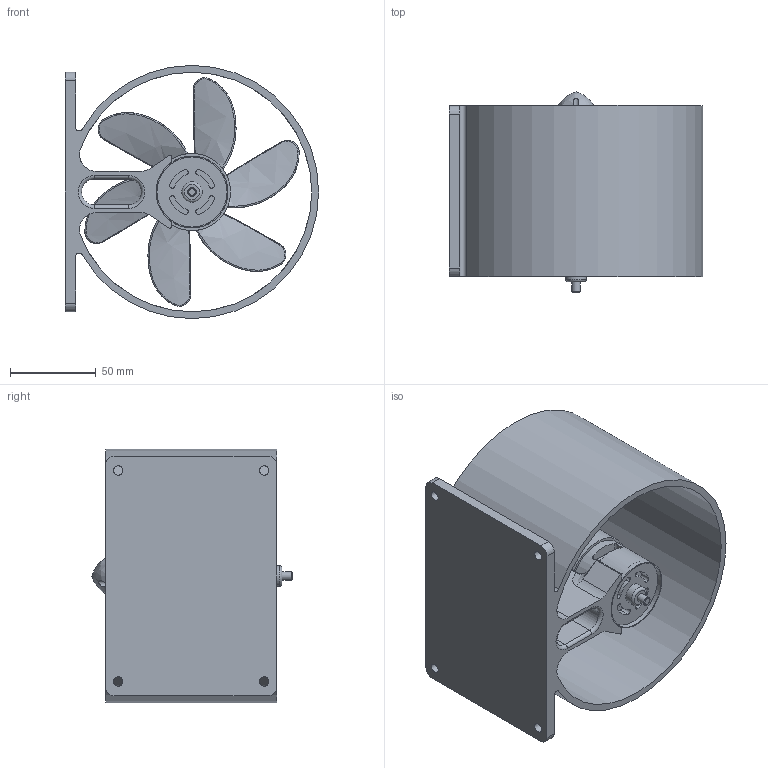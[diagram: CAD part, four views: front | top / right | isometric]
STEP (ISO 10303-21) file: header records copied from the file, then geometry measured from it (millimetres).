
FILE_DESCRIPTION(/* description */ (''),/* implementation_level */ '2;1');
FILE_NAME(/* name */ 'Assieme_ventilatore.stp',/* time_stamp */ '2025-01-19T17:48:03+01:00',/* author */ ('R5800u'),/* organization */ (''),/* preprocessor_version */ 'ST-DEVELOPER v20',/* originating_system */ 'Autodesk Inventor 2025',/* authorisation */ '');
FILE_SCHEMA (('AUTOMOTIVE_DESIGN { 1 0 10303 214 3 1 1 }'));
Length unit declared in the file: millimetre
Products named in the file (5): Assieme_ventilatore; fan2b; DC 775; tubo_140; ogiva
Assembly tree (4 placements, depth 2):
  Assieme_ventilatore
    fan2b
    DC 775
    tubo_140
    ogiva
Bounding box: 148 x 117.1 x 148 mm (x, y, z)
Volume: 430404.3 mm3; surface area: 165750.1 mm2
Topology: 4 solids, 4 shells, 371 faces, 1313 edges, 972 vertices
Faces by surface type: cylinder 140, bspline 136, plane 78, torus 17
Full cylindrical faces by diameter (mm): 2 x5, 2.9 x3, 3.5 x3, 4 x2, 4.5 x2, 5 x2, 5.5 x4, 8 x2, 12 x1, 17.5 x1, 19.5 x1, 26 x1, 41 x1, 42 x1, 140 x1
Entity records: 29917 total; most frequent: CARTESIAN_POINT 19512, ORIENTED_EDGE 2612, DIRECTION 1418, EDGE_CURVE 1306, VERTEX_POINT 972, B_SPLINE_CURVE_WITH_KNOTS 716, AXIS2_PLACEMENT_3D 584, EDGE_LOOP 432
